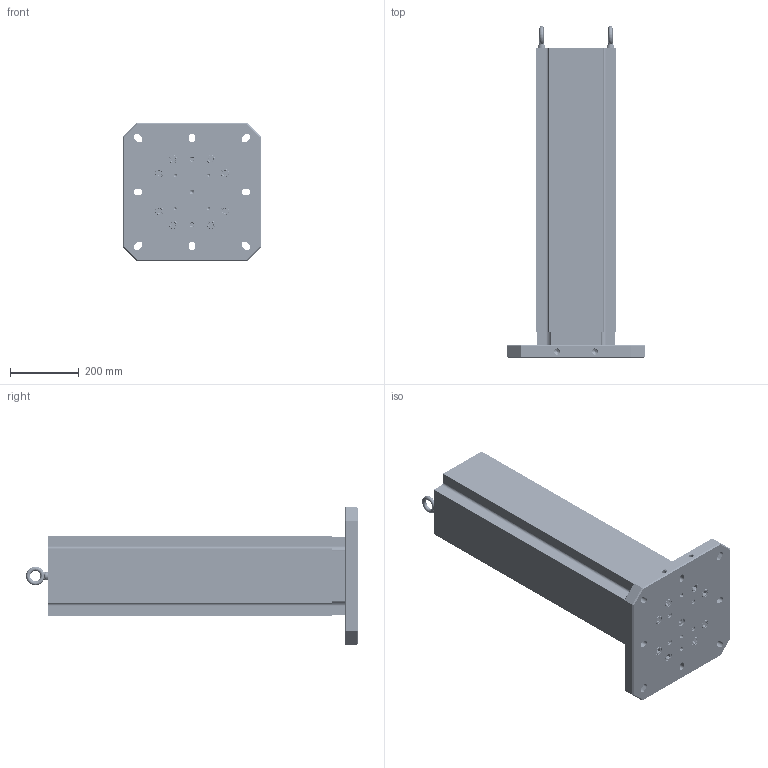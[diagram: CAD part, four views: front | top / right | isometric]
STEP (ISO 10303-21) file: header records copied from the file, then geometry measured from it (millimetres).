
FILE_DESCRIPTION (( 'STEP AP214' ), '1' );
FILE_NAME ('MTA-4004U-900.STEP', '2025-06-24T07:10:53', ( '' ), ( '' ), 'SwSTEP 2.0', 'SolidWorks 2024', '' );
FILE_SCHEMA (( 'AUTOMOTIVE_DESIGN' ));
Length unit declared in the file: millimetre
Products named in the file (8): M12X24MM.EB (McM 3040T15)_3040T15; HW.76452_dev_91290A835; MT-4862A_MT-4600A; RL96-14TC; HW.76172; MTA-4004U-900; RL96-4004BUA; 156x2.OR  -  O-RING, 156mm ID X 2mm THK, BUNA-N, 70A
Assembly tree (18 placements, depth 2):
  MTA-4004U-900
    RL96-4004BUA
    MT-4862A_MT-4600A
    M12X24MM.EB (McM 3040T15)_3040T15  x2
    156x2.OR  -  O-RING, 156mm ID X 2mm THK, BUNA-N, 70A
    HW.76452_dev_91290A835  x8
    RL96-14TC
    HW.76172  x4
Bounding box: 400 x 962.9 x 400 mm (x, y, z)
Volume: 34092832.8 mm3; surface area: 1828922.7 mm2
Topology: 18 solids, 18 shells, 2062 faces, 5522 edges, 3522 vertices
Faces by surface type: cylinder 1388, plane 318, cone 284, bspline 42, torus 30
Entity records: 33382 total; most frequent: CARTESIAN_POINT 13908, ORIENTED_EDGE 4162, DIRECTION 3945, EDGE_CURVE 2081, AXIS2_PLACEMENT_3D 1482, VERTEX_POINT 1327, VECTOR 981, LINE 981
